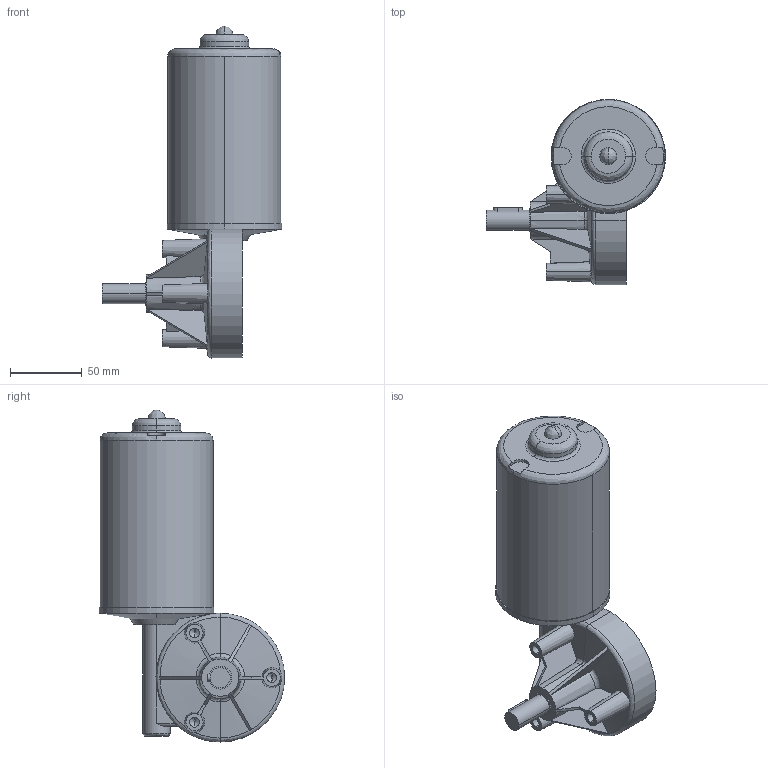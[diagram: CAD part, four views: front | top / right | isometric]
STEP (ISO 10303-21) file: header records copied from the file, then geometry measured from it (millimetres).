
FILE_DESCRIPTION (( 'STEP AP214' ), '1' );
FILE_NAME ('258.STEP', '2015-08-04T07:41:20', ( '' ), ( '' ), 'SwSTEP 2.0', 'SolidWorks 2014', '' );
FILE_SCHEMA (( 'AUTOMOTIVE_DESIGN' ));
Length unit declared in the file: millimetre
Products named in the file (1): 258
Bounding box: 125.2 x 129.5 x 232 mm (x, y, z)
Volume: 864160.7 mm3; surface area: 80291 mm2
Topology: 8 solids, 8 shells, 129 faces, 310 edges, 196 vertices
Faces by surface type: plane 64, cylinder 32, cone 19, bspline 14
Entity records: 4317 total; most frequent: CARTESIAN_POINT 1294, ORIENTED_EDGE 602, DIRECTION 574, EDGE_CURVE 301, AXIS2_PLACEMENT_3D 212, VERTEX_POINT 196, VECTOR 150, LINE 150
